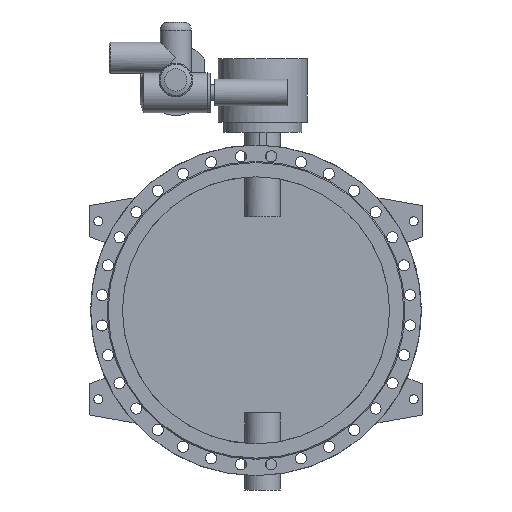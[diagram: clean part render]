
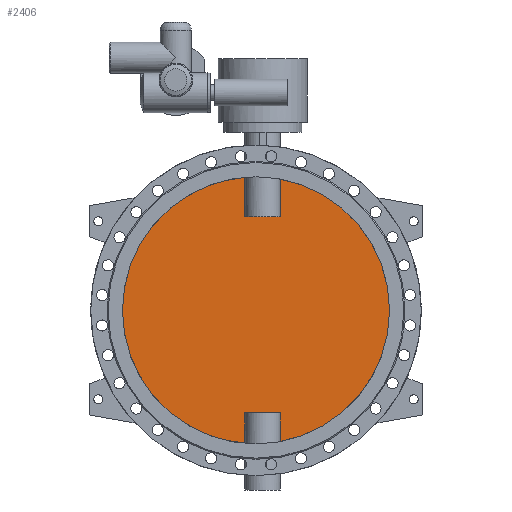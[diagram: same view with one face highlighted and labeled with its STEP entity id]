
A CAD part, front view. The second image highlights one B-rep face of the part: STEP entity #2406.
In plain terms, the highlighted planar face has unit normal (0, -1, 0).
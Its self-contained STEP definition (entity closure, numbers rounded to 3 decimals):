
#2406=ADVANCED_FACE('',(#4901),#4903,.F.);
#4901=FACE_BOUND('',#4902,.T.);
#4902=EDGE_LOOP('',(#5991,#5992,#5993,#5994,#5995,#5996,#5997,#5998));
#4903=PLANE('',#4904);
#4904=AXIS2_PLACEMENT_3D('',#4905,#4906,#4907);
#4905=CARTESIAN_POINT('',(0.,-5.,0.));
#4906=DIRECTION('',(0.,1.,0.));
#4907=DIRECTION('',(1.,0.,0.));
#5991=ORIENTED_EDGE('',*,*,#6537,.T.);
#5992=ORIENTED_EDGE('',*,*,#6542,.T.);
#5993=ORIENTED_EDGE('',*,*,#6543,.T.);
#5994=ORIENTED_EDGE('',*,*,#6544,.T.);
#5995=ORIENTED_EDGE('',*,*,#6539,.T.);
#5996=ORIENTED_EDGE('',*,*,#6545,.T.);
#5997=ORIENTED_EDGE('',*,*,#6546,.T.);
#5998=ORIENTED_EDGE('',*,*,#6547,.T.);
#6537=EDGE_CURVE('',#7503,#7504,#7505,.F.);
#6539=EDGE_CURVE('',#7508,#7506,#7509,.F.);
#6542=EDGE_CURVE('',#7504,#7513,#7514,.T.);
#6543=EDGE_CURVE('',#7513,#7515,#7516,.F.);
#6544=EDGE_CURVE('',#7515,#7508,#7517,.F.);
#6545=EDGE_CURVE('',#7506,#7518,#7519,.F.);
#6546=EDGE_CURVE('',#7518,#7520,#7521,.F.);
#6547=EDGE_CURVE('',#7520,#7503,#7522,.T.);
#7503=VERTEX_POINT('',#11650);
#7504=VERTEX_POINT('',#11651);
#7505=CIRCLE('',#11652,600.);
#7506=VERTEX_POINT('',#11656);
#7508=VERTEX_POINT('',#11750);
#7509=CIRCLE('',#11751,600.);
#7513=VERTEX_POINT('',#11854);
#7514=LINE('',#11855,#11856);
#7515=VERTEX_POINT('',#11858);
#7516=LINE('',#11859,#11860);
#7517=LINE('',#11862,#11863);
#7518=VERTEX_POINT('',#11865);
#7519=LINE('',#11866,#11867);
#7520=VERTEX_POINT('',#11869);
#7521=LINE('',#11870,#11871);
#7522=LINE('',#11873,#11874);
#11650=CARTESIAN_POINT('',(109.844,-5.,-589.86));
#11651=CARTESIAN_POINT('',(109.844,-5.,589.86));
#11652=AXIS2_PLACEMENT_3D('',#11653,#11654,#11655);
#11653=CARTESIAN_POINT('',(0.,-5.,0.));
#11654=DIRECTION('',(0.,1.,0.));
#11655=DIRECTION('',(0.183,0.,0.983));
#11656=CARTESIAN_POINT('',(-49.844,-5.,-597.926));
#11750=CARTESIAN_POINT('',(-49.844,-5.,597.926));
#11751=AXIS2_PLACEMENT_3D('',#11752,#11753,#11754);
#11752=CARTESIAN_POINT('',(0.,-5.,0.));
#11753=DIRECTION('',(0.,1.,0.));
#11754=DIRECTION('',(-0.083,0.,-0.997));
#11854=CARTESIAN_POINT('',(109.844,-5.,420.));
#11855=CARTESIAN_POINT('',(109.844,-5.,589.86));
#11856=VECTOR('',#11857,1.);
#11857=DIRECTION('',(0.,0.,-1.));
#11858=CARTESIAN_POINT('',(-49.844,-5.,420.));
#11859=CARTESIAN_POINT('',(-49.844,-5.,420.));
#11860=VECTOR('',#11861,1.);
#11861=DIRECTION('',(1.,0.,0.));
#11862=CARTESIAN_POINT('',(-49.844,-5.,597.926));
#11863=VECTOR('',#11864,1.);
#11864=DIRECTION('',(0.,0.,-1.));
#11865=CARTESIAN_POINT('',(-49.844,-5.,-460.));
#11866=CARTESIAN_POINT('',(-49.844,-5.,-460.));
#11867=VECTOR('',#11868,1.);
#11868=DIRECTION('',(0.,0.,-1.));
#11869=CARTESIAN_POINT('',(109.844,-5.,-460.));
#11870=CARTESIAN_POINT('',(109.844,-5.,-460.));
#11871=VECTOR('',#11872,1.);
#11872=DIRECTION('',(-1.,0.,0.));
#11873=CARTESIAN_POINT('',(109.844,-5.,-460.));
#11874=VECTOR('',#11875,1.);
#11875=DIRECTION('',(0.,0.,-1.));
